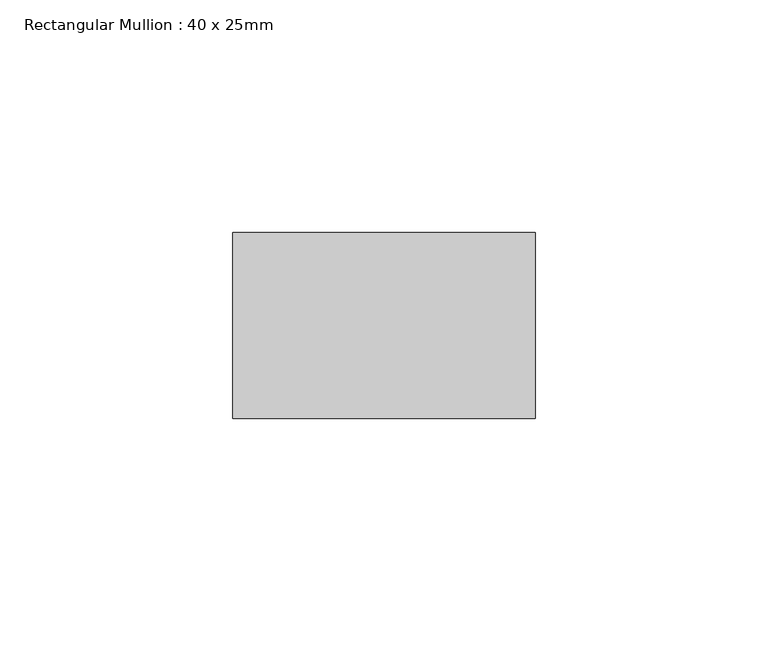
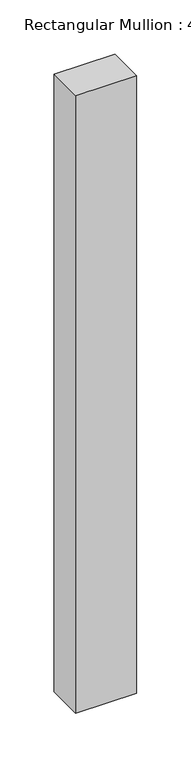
"""IFC4 building model written with IfcOpenShell, lengths in millimetres: member geometry, Rectangular Mullion : 40 x 25mm."""

from ifc_helpers import new_model, si_unit, frame, origin, place, context, project, spatial, polyline, outline, extrude, source, transform, mapped, element, save


def rectangular_mullion_40_x_25mm_9b637e73(model_context):
    return source(origin(), model_context, "Body", "SweptSolid", [
        extrude(outline(polyline([(0.0, -20.0), (0.0, -60.0), (-65.0, -60.0), (-65.0, -20.0), (0.0, -20.0)])), frame((0.0, 0.0, -695.8423071), z_axis=(0.0, 0.0, 1.0), x_axis=(1.0, 0.0, 0.0)), (0.0, 0.0, 1.0), 695.8423071),
    ])


if __name__ == "__main__":
    model = new_model("IFC4")
    model_context = context("Model", 3, world=origin())
    ifc_project = project(units=[si_unit("LENGTHUNIT", "METRE", prefix="MILLI")], contexts=[model_context])
    site = spatial("IfcSite", under=ifc_project)
    building = spatial("IfcBuilding", under=site)
    placement = place(None, origin())
    rectangular_mullion_40_x_25mm_shape = rectangular_mullion_40_x_25mm_9b637e73(model_context)
    element("IfcMember", 1, ObjectType="Rectangular Mullion : 40 x 25mm", at=placement, inside=building, context=model_context, shape_type="MappedRepresentation", body=[
        mapped(rectangular_mullion_40_x_25mm_shape, transform((0.0, 0.0, 0.0), x_axis=(1.0, 0.0, 0.0), y_axis=(0.0, 1.0, 0.0), z_axis=(0.0, 0.0, 1.0))),
    ])
    save(model, "model.ifc")
